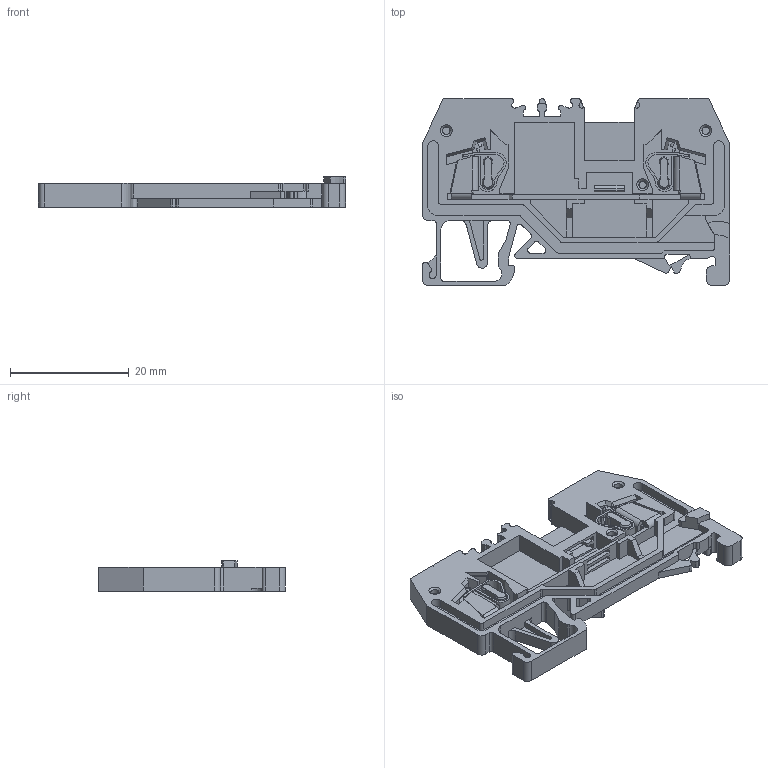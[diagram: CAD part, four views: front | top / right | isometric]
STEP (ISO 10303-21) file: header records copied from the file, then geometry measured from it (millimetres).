
FILE_DESCRIPTION (( 'STEP AP203' ), '1' );
FILE_NAME ('ﾊﾏﾐ1-1,5-2ﾂ.STEP', '2019-03-01T13:49:52', ( '' ), ( '' ), 'SwSTEP 2.0', 'SolidWorks 2016', '' );
FILE_SCHEMA (( 'CONFIG_CONTROL_DESIGN' ));
Length unit declared in the file: millimetre
Products named in the file (1): ﾊﾏﾐ1-1,5-2ﾂ
Bounding box: 51.6 x 31.4 x 5.1 mm (x, y, z)
Volume: 2705.4 mm3; surface area: 5978.2 mm2
Topology: 4 solids, 4 shells, 843 faces, 2358 edges, 1543 vertices
Faces by surface type: plane 549, cylinder 184, bspline 85, cone 22, torus 3
Full cylindrical faces by diameter (mm): 1.4 x3, 1.6 x3
Entity records: 31635 total; most frequent: CARTESIAN_POINT 10268, ORIENTED_EDGE 4684, DIRECTION 4018, EDGE_CURVE 2342, VECTOR 1738, LINE 1738, VERTEX_POINT 1542, AXIS2_PLACEMENT_3D 1140
